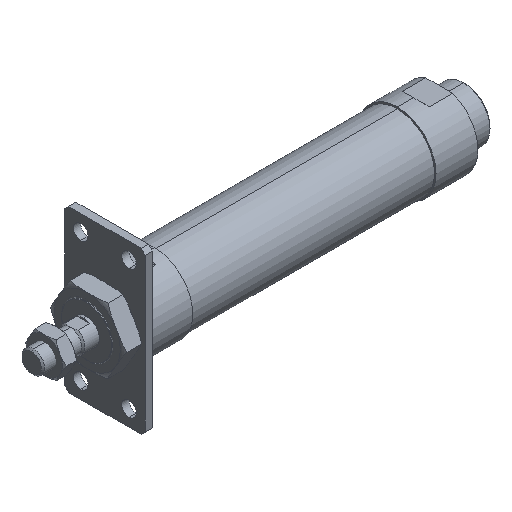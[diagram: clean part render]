
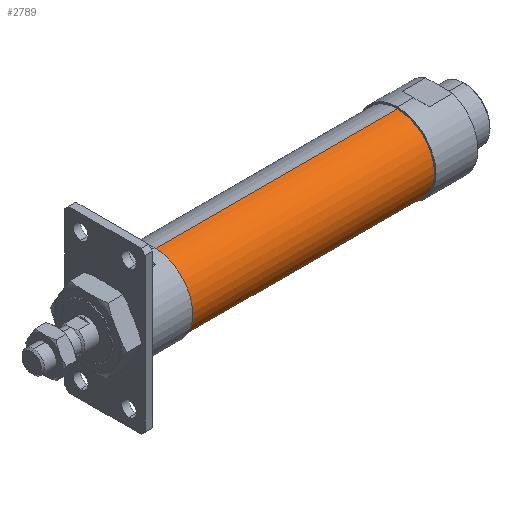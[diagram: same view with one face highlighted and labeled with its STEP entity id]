
A CAD part, isometric view. The second image highlights one B-rep face of the part: STEP entity #2789.
In plain terms, the highlighted cylindrical face has radius 23 mm (diameter 46 mm), a partial arc.
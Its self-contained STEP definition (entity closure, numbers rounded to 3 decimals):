
#63 = LINE ( 'NONE', #1149, #1086 ) ;
#118 = EDGE_LOOP ( 'NONE', ( #2761, #2462, #1259, #2768 ) ) ;
#140 = LINE ( 'NONE', #668, #2250 ) ;
#230 = VERTEX_POINT ( 'NONE', #1060 ) ;
#273 = CARTESIAN_POINT ( 'NONE',  ( 227., 0., -23. ) ) ;
#523 = DIRECTION ( 'NONE',  ( -1., 0., 0. ) ) ;
#635 = DIRECTION ( 'NONE',  ( -1., 0., 0. ) ) ;
#668 = CARTESIAN_POINT ( 'NONE',  ( -1.784, 0., 23. ) ) ;
#810 = DIRECTION ( 'NONE',  ( -1., 0., 0. ) ) ;
#981 = CARTESIAN_POINT ( 'NONE',  ( -1.784, 0., 0. ) ) ;
#1060 = CARTESIAN_POINT ( 'NONE',  ( 227., 0., 23. ) ) ;
#1086 = VECTOR ( 'NONE', #3354, 1000. ) ;
#1149 = CARTESIAN_POINT ( 'NONE',  ( -1.784, 0., -23. ) ) ;
#1153 = CARTESIAN_POINT ( 'NONE',  ( 76., 0., -23. ) ) ;
#1259 = ORIENTED_EDGE ( 'NONE', *, *, #3831, .T. ) ;
#1303 = AXIS2_PLACEMENT_3D ( 'NONE', #3819, #810, #3024 ) ;
#1483 = CARTESIAN_POINT ( 'NONE',  ( 76., 0., 23. ) ) ;
#1891 = VERTEX_POINT ( 'NONE', #273 ) ;
#2034 = EDGE_CURVE ( 'NONE', #4122, #3770, #2377, .T. ) ;
#2041 = DIRECTION ( 'NONE',  ( -1., 0., 0. ) ) ;
#2176 = CARTESIAN_POINT ( 'NONE',  ( 227., 0., 0. ) ) ;
#2250 = VECTOR ( 'NONE', #523, 1000. ) ;
#2377 = CIRCLE ( 'NONE', #1303, 23. ) ;
#2419 = FACE_OUTER_BOUND ( 'NONE', #118, .T. ) ;
#2462 = ORIENTED_EDGE ( 'NONE', *, *, #3912, .T. ) ;
#2538 = DIRECTION ( 'NONE',  ( 0., 0., 1. ) ) ;
#2758 = CYLINDRICAL_SURFACE ( 'NONE', #4208, 23. ) ;
#2761 = ORIENTED_EDGE ( 'NONE', *, *, #4062, .F. ) ;
#2768 = ORIENTED_EDGE ( 'NONE', *, *, #2034, .F. ) ;
#2789 = ADVANCED_FACE ( 'NONE', ( #2419 ), #2758, .T. ) ;
#2893 = CIRCLE ( 'NONE', #3395, 23. ) ;
#3024 = DIRECTION ( 'NONE',  ( 0., 0., 1. ) ) ;
#3354 = DIRECTION ( 'NONE',  ( -1., 0., 0. ) ) ;
#3395 = AXIS2_PLACEMENT_3D ( 'NONE', #2176, #2041, #3487 ) ;
#3487 = DIRECTION ( 'NONE',  ( 0., 0., 1. ) ) ;
#3770 = VERTEX_POINT ( 'NONE', #1483 ) ;
#3819 = CARTESIAN_POINT ( 'NONE',  ( 76., 0., 0. ) ) ;
#3831 = EDGE_CURVE ( 'NONE', #230, #3770, #140, .T. ) ;
#3912 = EDGE_CURVE ( 'NONE', #1891, #230, #2893, .T. ) ;
#4062 = EDGE_CURVE ( 'NONE', #1891, #4122, #63, .T. ) ;
#4122 = VERTEX_POINT ( 'NONE', #1153 ) ;
#4208 = AXIS2_PLACEMENT_3D ( 'NONE', #981, #635, #2538 ) ;
